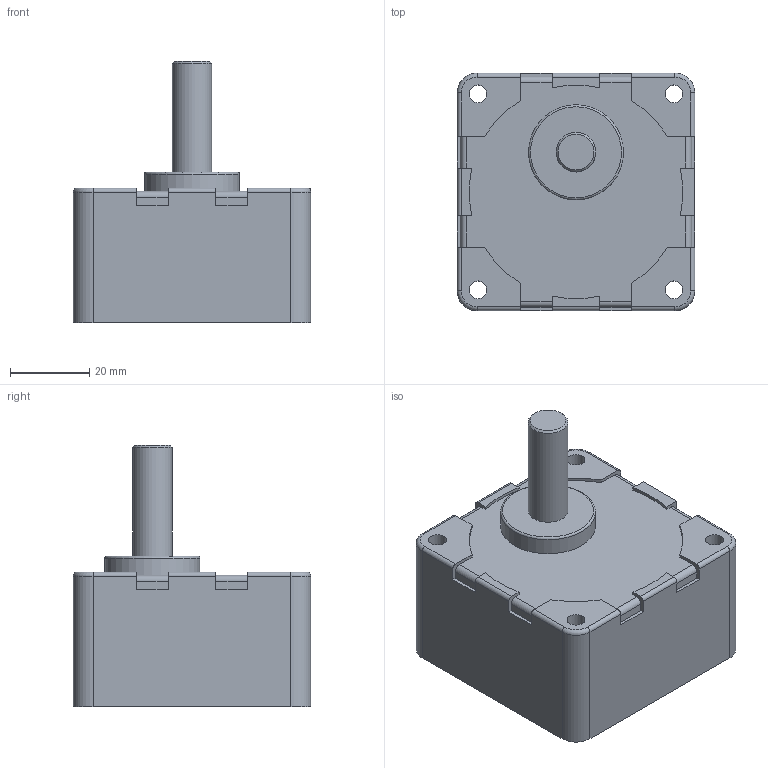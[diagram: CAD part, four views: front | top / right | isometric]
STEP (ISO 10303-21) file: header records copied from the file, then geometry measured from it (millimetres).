
FILE_DESCRIPTION(/* description */ (''),/* implementation_level */ '2;1');
FILE_NAME(/* name */ 'E:\도면작업\2016\0704) 미주향 SG 도면\3D GEAR HEAD\SG6SA5~25.stp',/* time_stamp */ '2016-07-22T14:01:21+09:00',/* author */ ('jy-jung'),/* organization */ (''),/* preprocessor_version */ 'ST-DEVELOPER v15.6',/* originating_system */ 'Autodesk Inventor 2015',/* authorisation */ '');
FILE_SCHEMA (('AUTOMOTIVE_DESIGN { 1 0 10303 214 3 1 1 }'));
Length unit declared in the file: millimetre
Products named in the file (1): SG6SA5~25
Bounding box: 60 x 60 x 66 mm (x, y, z)
Volume: 115820.8 mm3; surface area: 18668 mm2
Topology: 1 solids, 1 shells, 97 faces, 262 edges, 171 vertices
Faces by surface type: plane 50, cylinder 39, torus 5, cone 3
Full cylindrical faces by diameter (mm): 4.5 x4, 5.7 x1, 10 x1, 24 x1, 54 x1
Entity records: 3025 total; most frequent: DIRECTION 531, CARTESIAN_POINT 517, ORIENTED_EDGE 498, EDGE_CURVE 249, AXIS2_PLACEMENT_3D 184, VERTEX_POINT 170, LINE 163, VECTOR 163
